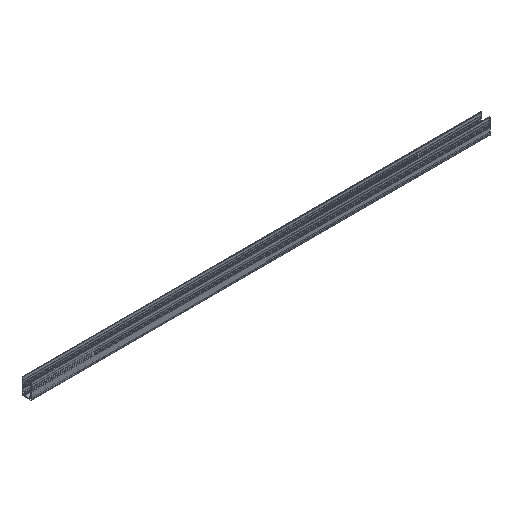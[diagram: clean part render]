
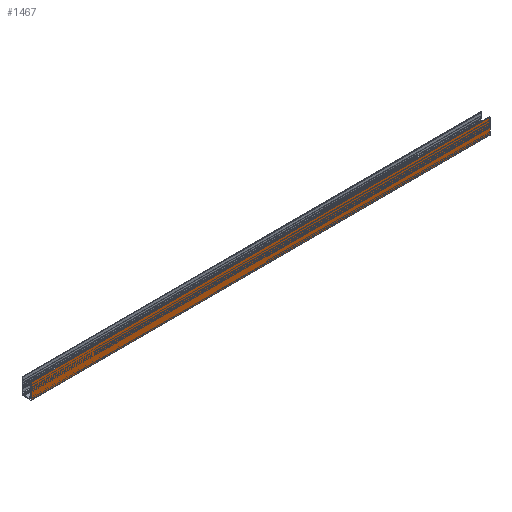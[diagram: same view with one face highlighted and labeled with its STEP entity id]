
A CAD part, isometric view. The second image highlights one B-rep face of the part: STEP entity #1467.
In plain terms, the highlighted planar face has unit normal (0, -1, 0).
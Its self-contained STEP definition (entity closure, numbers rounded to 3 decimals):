
#54=PLANE('',#1601);
#121=FACE_OUTER_BOUND('',#199,.T.);
#199=EDGE_LOOP('',(#1195,#1196,#1197,#1198));
#343=LINE('',#2408,#499);
#344=LINE('',#2411,#500);
#345=LINE('',#2413,#501);
#346=LINE('',#2414,#502);
#499=VECTOR('',#1969,10.);
#500=VECTOR('',#1972,10.);
#501=VECTOR('',#1973,10.);
#502=VECTOR('',#1974,10.);
#703=VERTEX_POINT('',#2404);
#704=VERTEX_POINT('',#2406);
#705=VERTEX_POINT('',#2410);
#706=VERTEX_POINT('',#2412);
#905=EDGE_CURVE('',#703,#704,#343,.T.);
#906=EDGE_CURVE('',#705,#703,#344,.T.);
#907=EDGE_CURVE('',#706,#704,#345,.T.);
#908=EDGE_CURVE('',#705,#706,#346,.T.);
#1195=ORIENTED_EDGE('',*,*,#906,.T.);
#1196=ORIENTED_EDGE('',*,*,#905,.T.);
#1197=ORIENTED_EDGE('',*,*,#907,.F.);
#1198=ORIENTED_EDGE('',*,*,#908,.F.);
#1467=ADVANCED_FACE('',(#121),#54,.T.);
#1601=AXIS2_PLACEMENT_3D('',#2409,#1970,#1971);
#1969=DIRECTION('',(1.,0.,0.));
#1970=DIRECTION('center_axis',(0.,-1.,0.));
#1971=DIRECTION('ref_axis',(0.,0.,-1.));
#1972=DIRECTION('',(0.,0.,-1.));
#1973=DIRECTION('',(0.,0.,-1.));
#1974=DIRECTION('',(1.,0.,0.));
#2404=CARTESIAN_POINT('',(0.,-10.1,0.5));
#2406=CARTESIAN_POINT('',(1000.,-10.1,0.5));
#2408=CARTESIAN_POINT('',(0.,-10.1,0.5));
#2409=CARTESIAN_POINT('Origin',(0.,-10.1,34.));
#2410=CARTESIAN_POINT('',(0.,-10.1,34.));
#2411=CARTESIAN_POINT('',(0.,-10.1,34.));
#2412=CARTESIAN_POINT('',(1000.,-10.1,34.));
#2413=CARTESIAN_POINT('',(1000.,-10.1,34.));
#2414=CARTESIAN_POINT('',(0.,-10.1,34.));
